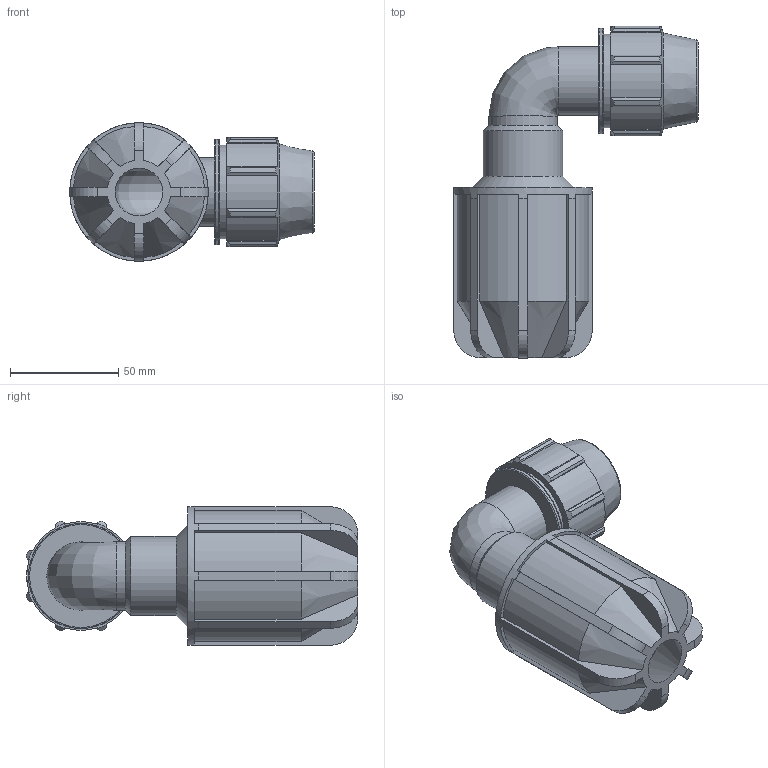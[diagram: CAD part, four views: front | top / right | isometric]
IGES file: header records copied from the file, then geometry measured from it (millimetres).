
Global section: file name: 070570025022_180570025022_0705700250220A.ipt; native system: Autodesk Inventor 2015; preprocessor: unknown; author: KIM; date: 20170606.172135; units: millimetre
Bounding box: 113 x 153.41 x 64 mm (x, y, z)
Volume: 233203.9 mm3; surface area: 59968 mm2
Topology: 1 solids, 1 shells, 160 faces, 453 edges, 301 vertices
Faces by surface type: plane 88, cylinder 38, cone 20, revolution 14
Full cylindrical faces by diameter (mm): 31.551 x2, 36.591 x1, 43.2 x1, 48.6 x1, 64 x1
